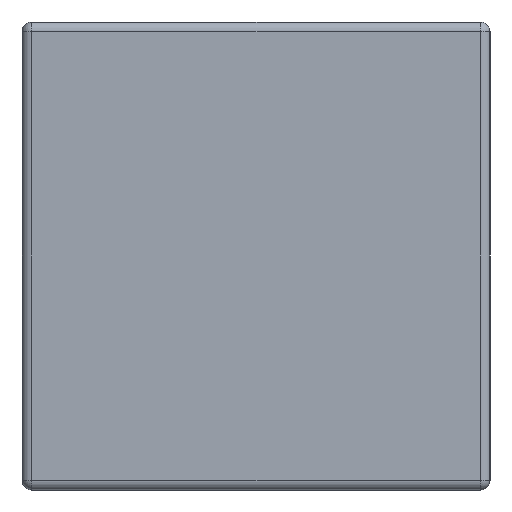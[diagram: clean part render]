
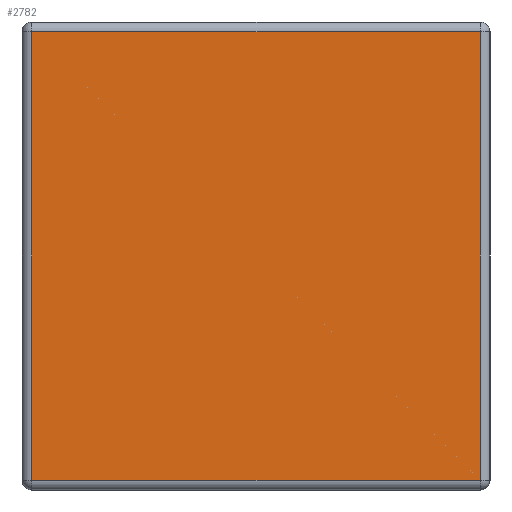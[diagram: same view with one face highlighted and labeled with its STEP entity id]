
A CAD part, left-side view. The second image highlights one B-rep face of the part: STEP entity #2782.
In plain terms, the highlighted planar face has unit normal (-1, 0, 0).
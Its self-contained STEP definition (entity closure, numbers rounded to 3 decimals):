
#3 = CARTESIAN_POINT ( 'NONE',  ( 0., 0.33, -0.007 ) ) ;
#76 = CARTESIAN_POINT ( 'NONE',  ( 0., 0., 0. ) ) ;
#454 = PLANE ( 'NONE',  #870 ) ;
#500 = ORIENTED_EDGE ( 'NONE', *, *, #3356, .T. ) ;
#751 = EDGE_CURVE ( 'NONE', #2577, #3272, #2856, .T. ) ;
#870 = AXIS2_PLACEMENT_3D ( 'NONE', #76, #4345, #1159 ) ;
#1016 = CARTESIAN_POINT ( 'NONE',  ( 0., 0.007, 0. ) ) ;
#1033 = VERTEX_POINT ( 'NONE', #4186 ) ;
#1035 = CARTESIAN_POINT ( 'NONE',  ( 0., 0.323, -0.33 ) ) ;
#1043 = ORIENTED_EDGE ( 'NONE', *, *, #3335, .T. ) ;
#1159 = DIRECTION ( 'NONE',  ( 0., 0., 1. ) ) ;
#1388 = DIRECTION ( 'NONE',  ( 0., 1., 0. ) ) ;
#1613 = VERTEX_POINT ( 'NONE', #3063 ) ;
#1813 = VECTOR ( 'NONE', #1388, 1000. ) ;
#1988 = CARTESIAN_POINT ( 'NONE',  ( 0., 0.323, -0.323 ) ) ;
#2192 = EDGE_LOOP ( 'NONE', ( #2492, #1043, #500, #2761 ) ) ;
#2419 = DIRECTION ( 'NONE',  ( 0., 0., 1. ) ) ;
#2492 = ORIENTED_EDGE ( 'NONE', *, *, #3274, .T. ) ;
#2577 = VERTEX_POINT ( 'NONE', #2859 ) ;
#2704 = LINE ( 'NONE', #2789, #3071 ) ;
#2761 = ORIENTED_EDGE ( 'NONE', *, *, #751, .T. ) ;
#2782 = ADVANCED_FACE ( 'NONE', ( #3539 ), #454, .T. ) ;
#2789 = CARTESIAN_POINT ( 'NONE',  ( 0., 0., -0.323 ) ) ;
#2856 = LINE ( 'NONE', #1035, #3855 ) ;
#2859 = CARTESIAN_POINT ( 'NONE',  ( 0., 0.323, -0.007 ) ) ;
#3063 = CARTESIAN_POINT ( 'NONE',  ( 0., 0.007, -0.323 ) ) ;
#3071 = VECTOR ( 'NONE', #3464, 1000. ) ;
#3132 = LINE ( 'NONE', #3, #1813 ) ;
#3272 = VERTEX_POINT ( 'NONE', #1988 ) ;
#3274 = EDGE_CURVE ( 'NONE', #3272, #1613, #2704, .T. ) ;
#3335 = EDGE_CURVE ( 'NONE', #1613, #1033, #4534, .T. ) ;
#3356 = EDGE_CURVE ( 'NONE', #1033, #2577, #3132, .T. ) ;
#3464 = DIRECTION ( 'NONE',  ( 0., -1., 0. ) ) ;
#3539 = FACE_OUTER_BOUND ( 'NONE', #2192, .T. ) ;
#3855 = VECTOR ( 'NONE', #4264, 1000. ) ;
#4186 = CARTESIAN_POINT ( 'NONE',  ( 0., 0.007, -0.007 ) ) ;
#4264 = DIRECTION ( 'NONE',  ( 0., 0., -1. ) ) ;
#4345 = DIRECTION ( 'NONE',  ( -1., 0., 0. ) ) ;
#4412 = VECTOR ( 'NONE', #2419, 1000. ) ;
#4534 = LINE ( 'NONE', #1016, #4412 ) ;
